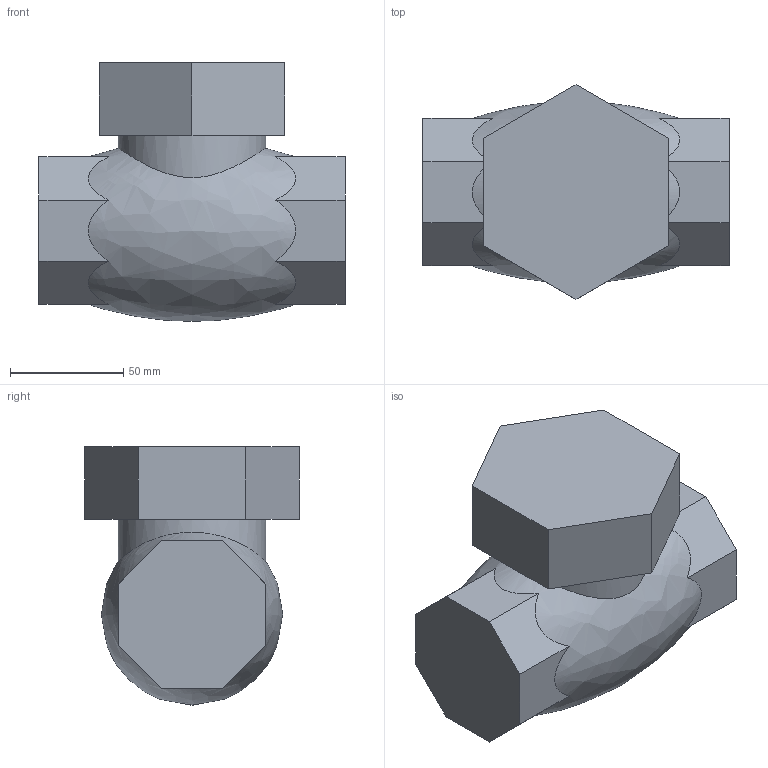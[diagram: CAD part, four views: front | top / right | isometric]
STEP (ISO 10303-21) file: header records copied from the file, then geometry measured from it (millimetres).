
FILE_DESCRIPTION(/* description */ (''),/* implementation_level */ '2;1');
FILE_NAME(/* name */ '40A.step',/* time_stamp */ '2023-12-08T09:31:33+09:00',/* author */ (''),/* organization */ (''),/* preprocessor_version */ 'ST-DEVELOPER v20',/* originating_system */ 'Autodesk Translation Framework v12.14.0.127',/* authorisation */ '');
FILE_SCHEMA (('AUTOMOTIVE_DESIGN { 1 0 10303 214 3 1 1 }'));
Length unit declared in the file: millimetre
Products named in the file (1): 40A
Bounding box: 135 x 94.69 x 114 mm (x, y, z)
Volume: 767863.1 mm3; surface area: 54446.4 mm2
Topology: 1 solids, 1 shells, 28 faces, 74 edges, 49 vertices
Faces by surface type: plane 26, bspline 1, cylinder 1
Full cylindrical faces by diameter (mm): 65 x1
Entity records: 1389 total; most frequent: CARTESIAN_POINT 707, ORIENTED_EDGE 148, DIRECTION 109, EDGE_CURVE 74, LINE 51, VECTOR 51, VERTEX_POINT 49, EDGE_LOOP 29
